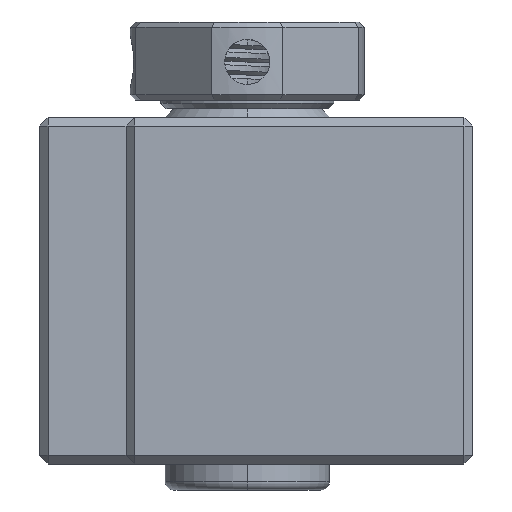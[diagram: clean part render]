
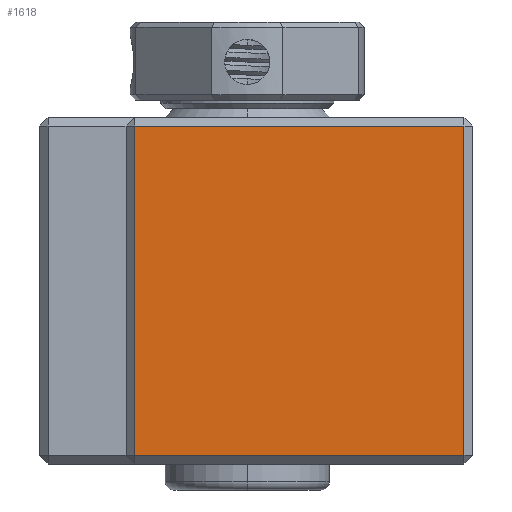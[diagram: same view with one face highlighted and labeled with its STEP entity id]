
A CAD part, left-side view. The second image highlights one B-rep face of the part: STEP entity #1618.
In plain terms, the highlighted planar face has unit normal (-1, 0, 0).
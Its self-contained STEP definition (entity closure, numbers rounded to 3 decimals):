
#1586 = EDGE_LOOP ( 'NONE', ( #1619, #1623, #1626, #1629 ) ) ;
#1618 = ADVANCED_FACE ( 'NONE', ( #11692 ), #11691, .F. ) ;
#1619 = ORIENTED_EDGE ( 'NONE', *, *, #1620, .T. ) ;
#1620 = EDGE_CURVE ( 'NONE', #1621, #1622, #11733, .T. ) ;
#1621 = VERTEX_POINT ( 'NONE', #11729 ) ;
#1622 = VERTEX_POINT ( 'NONE', #11728 ) ;
#1623 = ORIENTED_EDGE ( 'NONE', *, *, #1624, .T. ) ;
#1624 = EDGE_CURVE ( 'NONE', #1622, #1625, #11727, .T. ) ;
#1625 = VERTEX_POINT ( 'NONE', #11723 ) ;
#1626 = ORIENTED_EDGE ( 'NONE', *, *, #1627, .T. ) ;
#1627 = EDGE_CURVE ( 'NONE', #1625, #1628, #11722, .T. ) ;
#1628 = VERTEX_POINT ( 'NONE', #11718 ) ;
#1629 = ORIENTED_EDGE ( 'NONE', *, *, #1630, .T. ) ;
#1630 = EDGE_CURVE ( 'NONE', #1628, #1621, #11717, .T. ) ;
#11690 = CARTESIAN_POINT ( 'NONE',  ( -21., 20., 10. ) ) ;
#11691 = PLANE ( 'NONE',  #11736 ) ;
#11692 = FACE_OUTER_BOUND ( 'NONE', #1586, .T. ) ;
#11715 = DIRECTION ( 'NONE',  ( 0., 0., -1. ) ) ;
#11716 = CARTESIAN_POINT ( 'NONE',  ( -21., 19.5, 10. ) ) ;
#11717 = LINE ( 'NONE', #11716, #11782 ) ;
#11718 = CARTESIAN_POINT ( 'NONE',  ( -21., 19.5, 9.5 ) ) ;
#11719 = DIRECTION ( 'NONE',  ( 0., 1., 0. ) ) ;
#11720 = VECTOR ( 'NONE', #11719, 1000. ) ;
#11721 = CARTESIAN_POINT ( 'NONE',  ( -21., 20., 9.5 ) ) ;
#11722 = LINE ( 'NONE', #11721, #11720 ) ;
#11723 = CARTESIAN_POINT ( 'NONE',  ( -21., 0.5, 9.5 ) ) ;
#11724 = DIRECTION ( 'NONE',  ( 0., 0., 1. ) ) ;
#11725 = VECTOR ( 'NONE', #11724, 1000. ) ;
#11726 = CARTESIAN_POINT ( 'NONE',  ( -21., 0.5, 10. ) ) ;
#11727 = LINE ( 'NONE', #11726, #11725 ) ;
#11728 = CARTESIAN_POINT ( 'NONE',  ( -21., 0.5, -9.5 ) ) ;
#11729 = CARTESIAN_POINT ( 'NONE',  ( -21., 19.5, -9.5 ) ) ;
#11730 = DIRECTION ( 'NONE',  ( 0., -1., 0. ) ) ;
#11731 = VECTOR ( 'NONE', #11730, 1000. ) ;
#11732 = CARTESIAN_POINT ( 'NONE',  ( -21., 20., -9.5 ) ) ;
#11733 = LINE ( 'NONE', #11732, #11731 ) ;
#11734 = DIRECTION ( 'NONE',  ( 0., 0., -1. ) ) ;
#11735 = DIRECTION ( 'NONE',  ( 1., 0., 0. ) ) ;
#11736 = AXIS2_PLACEMENT_3D ( 'NONE', #11690, #11735, #11734 ) ;
#11782 = VECTOR ( 'NONE', #11715, 1000. ) ;
